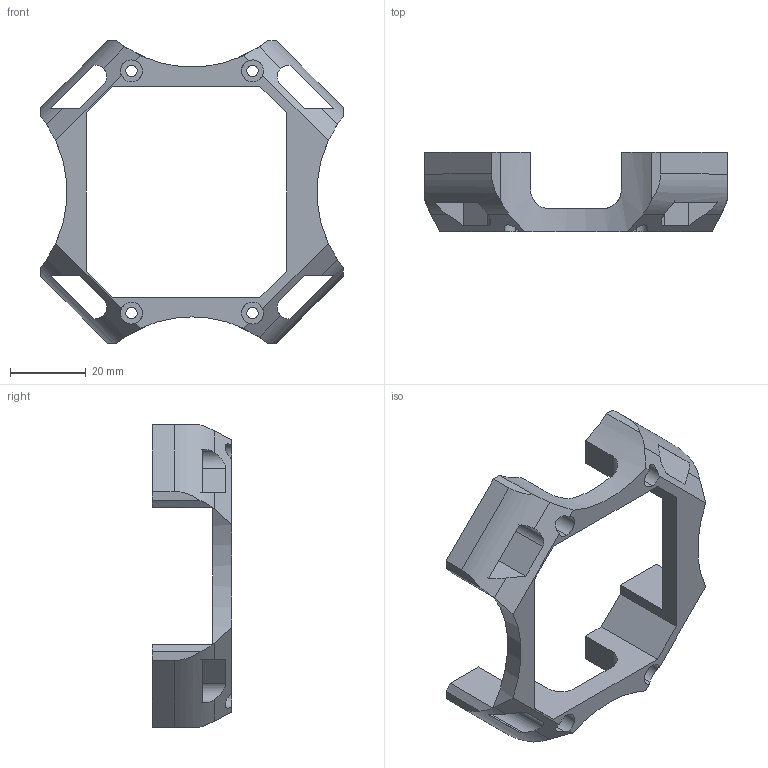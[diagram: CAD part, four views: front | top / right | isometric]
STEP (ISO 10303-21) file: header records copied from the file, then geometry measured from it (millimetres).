
FILE_DESCRIPTION (( 'STEP AP214' ), '1' );
FILE_NAME ('Bottom Body.STEP', '2026-03-15T17:26:00', ( '' ), ( '' ), 'SwSTEP 2.0', 'SolidWorks 2026', '' );
FILE_SCHEMA (( 'AUTOMOTIVE_DESIGN' ));
Length unit declared in the file: millimetre
Products named in the file (1): Bottom Body
Bounding box: 80 x 21 x 80 mm (x, y, z)
Volume: 19509 mm3; surface area: 14090 mm2
Topology: 1 solids, 1 shells, 94 faces, 291 edges, 194 vertices
Faces by surface type: plane 61, cylinder 33
Entity records: 3484 total; most frequent: CARTESIAN_POINT 948, ORIENTED_EDGE 582, DIRECTION 463, EDGE_CURVE 291, VERTEX_POINT 194, LINE 181, VECTOR 181, AXIS2_PLACEMENT_3D 141
